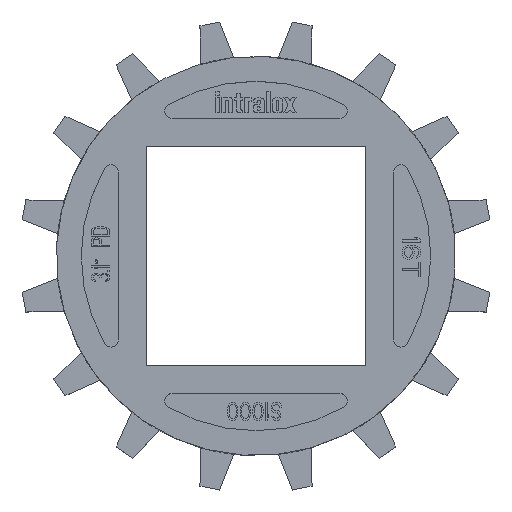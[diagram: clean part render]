
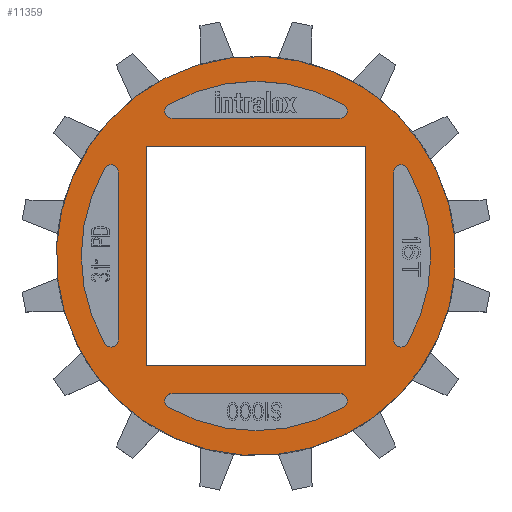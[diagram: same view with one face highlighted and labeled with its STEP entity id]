
A CAD part, top view. The second image highlights one B-rep face of the part: STEP entity #11359.
In plain terms, the highlighted planar face has unit normal (0, 0, 1).
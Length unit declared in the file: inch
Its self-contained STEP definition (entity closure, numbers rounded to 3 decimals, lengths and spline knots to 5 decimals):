
#107=CARTESIAN_POINT('',(0.,0.,0.25));
#108=DIRECTION('',(0.,0.,-1.));
#109=DIRECTION('',(0.707,0.707,0.));
#110=AXIS2_PLACEMENT_3D('',#107,#108,#109);
#917=CARTESIAN_POINT('',(0.,0.,0.25));
#918=DIRECTION('',(0.,0.,1.));
#919=DIRECTION('',(0.707,0.707,0.));
#920=AXIS2_PLACEMENT_3D('',#917,#918,#919);
#922=DIRECTION('',(1.,0.,0.));
#923=VECTOR('',#922,1.1453);
#924=CARTESIAN_POINT('',(-0.57265,-0.94,0.25));
#925=LINE('',#924,#923);
#926=CARTESIAN_POINT('',(-0.57265,-0.99,0.25));
#927=DIRECTION('',(0.,0.,-1.));
#928=DIRECTION('',(-0.501,-0.866,0.));
#929=AXIS2_PLACEMENT_3D('',#926,#927,#928);
#931=CARTESIAN_POINT('',(0.,0.,0.25));
#932=DIRECTION('',(0.,0.,-1.));
#933=DIRECTION('',(0.501,-0.866,0.));
#934=AXIS2_PLACEMENT_3D('',#931,#932,#933);
#936=CARTESIAN_POINT('',(0.57265,-0.99,0.25));
#937=DIRECTION('',(0.,0.,-1.));
#938=DIRECTION('',(0.,1.,0.));
#939=AXIS2_PLACEMENT_3D('',#936,#937,#938);
#941=DIRECTION('',(0.,1.,0.));
#942=VECTOR('',#941,1.1453);
#943=CARTESIAN_POINT('',(0.94,-0.57265,0.25));
#944=LINE('',#943,#942);
#945=CARTESIAN_POINT('',(0.99,-0.57265,0.25));
#946=DIRECTION('',(0.,0.,-1.));
#947=DIRECTION('',(0.866,-0.501,0.));
#948=AXIS2_PLACEMENT_3D('',#945,#946,#947);
#950=CARTESIAN_POINT('',(0.,0.,0.25));
#951=DIRECTION('',(0.,0.,-1.));
#952=DIRECTION('',(0.866,0.501,0.));
#953=AXIS2_PLACEMENT_3D('',#950,#951,#952);
#955=CARTESIAN_POINT('',(0.99,0.57265,0.25));
#956=DIRECTION('',(0.,0.,-1.));
#957=DIRECTION('',(-1.,0.,0.));
#958=AXIS2_PLACEMENT_3D('',#955,#956,#957);
#960=DIRECTION('',(-1.,0.,0.));
#961=VECTOR('',#960,1.1453);
#962=CARTESIAN_POINT('',(0.57265,0.94,0.25));
#963=LINE('',#962,#961);
#964=CARTESIAN_POINT('',(0.57265,0.99,0.25));
#965=DIRECTION('',(0.,0.,-1.));
#966=DIRECTION('',(0.501,0.866,0.));
#967=AXIS2_PLACEMENT_3D('',#964,#965,#966);
#969=CARTESIAN_POINT('',(0.,0.,0.25));
#970=DIRECTION('',(0.,0.,-1.));
#971=DIRECTION('',(-0.501,0.866,0.));
#972=AXIS2_PLACEMENT_3D('',#969,#970,#971);
#974=CARTESIAN_POINT('',(-0.57265,0.99,0.25));
#975=DIRECTION('',(0.,0.,-1.));
#976=DIRECTION('',(0.,-1.,0.));
#977=AXIS2_PLACEMENT_3D('',#974,#975,#976);
#979=DIRECTION('',(0.,-1.,0.));
#980=VECTOR('',#979,1.1453);
#981=CARTESIAN_POINT('',(-0.94,0.57265,0.25));
#982=LINE('',#981,#980);
#983=CARTESIAN_POINT('',(-0.99,0.57265,0.25));
#984=DIRECTION('',(0.,0.,-1.));
#985=DIRECTION('',(-0.866,0.501,0.));
#986=AXIS2_PLACEMENT_3D('',#983,#984,#985);
#988=CARTESIAN_POINT('',(0.,0.,0.25));
#989=DIRECTION('',(0.,0.,-1.));
#990=DIRECTION('',(-0.866,-0.501,0.));
#991=AXIS2_PLACEMENT_3D('',#988,#989,#990);
#993=CARTESIAN_POINT('',(-0.99,-0.57265,0.25));
#994=DIRECTION('',(0.,0.,-1.));
#995=DIRECTION('',(1.,0.,0.));
#996=AXIS2_PLACEMENT_3D('',#993,#994,#995);
#998=DIRECTION('',(0.,1.,0.));
#999=VECTOR('',#998,1.5);
#1000=CARTESIAN_POINT('',(-0.75,-0.75,0.25));
#1001=LINE('',#1000,#999);
#1002=DIRECTION('',(-1.,0.,0.));
#1003=VECTOR('',#1002,1.5);
#1004=CARTESIAN_POINT('',(0.75,-0.75,0.25));
#1005=LINE('',#1004,#1003);
#1006=DIRECTION('',(0.,-1.,0.));
#1007=VECTOR('',#1006,1.5);
#1008=CARTESIAN_POINT('',(0.75,0.75,0.25));
#1009=LINE('',#1008,#1007);
#1010=DIRECTION('',(1.,0.,0.));
#1011=VECTOR('',#1010,1.5);
#1012=CARTESIAN_POINT('',(-0.75,0.75,0.25));
#1013=LINE('',#1012,#1011);
#7630=CARTESIAN_POINT('',(0.96427,0.96427,0.25));
#7631=VERTEX_POINT('',#7630);
#7632=CARTESIAN_POINT('',(0.52186,1.25988,0.25));
#7633=VERTEX_POINT('',#7632);
#9675=CARTESIAN_POINT('',(-0.75,-0.75,0.25));
#9677=VERTEX_POINT('',#9675);
#9679=CARTESIAN_POINT('',(-0.75,0.75,0.25));
#9681=VERTEX_POINT('',#9679);
#9683=CARTESIAN_POINT('',(0.75,0.75,0.25));
#9685=VERTEX_POINT('',#9683);
#9687=CARTESIAN_POINT('',(0.75,-0.75,0.25));
#9689=VERTEX_POINT('',#9687);
#9714=CARTESIAN_POINT('',(-0.57265,-0.94,0.25));
#9715=CARTESIAN_POINT('',(0.57265,-0.94,0.25));
#9716=VERTEX_POINT('',#9714);
#9717=VERTEX_POINT('',#9715);
#9718=CARTESIAN_POINT('',(0.59768,-1.03328,0.25));
#9719=VERTEX_POINT('',#9718);
#9720=CARTESIAN_POINT('',(-0.59768,-1.03328,0.25));
#9721=VERTEX_POINT('',#9720);
#9778=CARTESIAN_POINT('',(0.94,-0.57265,0.25));
#9779=CARTESIAN_POINT('',(0.94,0.57265,0.25));
#9780=VERTEX_POINT('',#9778);
#9781=VERTEX_POINT('',#9779);
#9782=CARTESIAN_POINT('',(1.03328,0.59768,0.25));
#9783=VERTEX_POINT('',#9782);
#9784=CARTESIAN_POINT('',(1.03328,-0.59768,0.25));
#9785=VERTEX_POINT('',#9784);
#9794=CARTESIAN_POINT('',(0.57265,0.94,0.25));
#9795=CARTESIAN_POINT('',(-0.57265,0.94,0.25));
#9796=VERTEX_POINT('',#9794);
#9797=VERTEX_POINT('',#9795);
#9798=CARTESIAN_POINT('',(-0.59768,1.03328,0.25));
#9799=VERTEX_POINT('',#9798);
#9800=CARTESIAN_POINT('',(0.59768,1.03328,0.25));
#9801=VERTEX_POINT('',#9800);
#9810=CARTESIAN_POINT('',(-0.94,0.57265,0.25));
#9811=CARTESIAN_POINT('',(-0.94,-0.57265,0.25));
#9812=VERTEX_POINT('',#9810);
#9813=VERTEX_POINT('',#9811);
#9814=CARTESIAN_POINT('',(-1.03328,-0.59768,0.25));
#9815=VERTEX_POINT('',#9814);
#9816=CARTESIAN_POINT('',(-1.03328,0.59768,0.25));
#9817=VERTEX_POINT('',#9816);
#11300=CARTESIAN_POINT('',(0.,0.,0.25));
#11301=DIRECTION('',(0.,0.,1.));
#11302=DIRECTION('',(1.,0.,0.));
#11303=AXIS2_PLACEMENT_3D('',#11300,#11301,#11302);
#11304=PLANE('',#11303);
#11305=ORIENTED_EDGE('',*,*,#10031,.T.);
#11306=ORIENTED_EDGE('',*,*,#11215,.F.);
#11307=EDGE_LOOP('',(#11305,#11306));
#11308=FACE_OUTER_BOUND('',#11307,.F.);
#11310=ORIENTED_EDGE('',*,*,#11309,.F.);
#11312=ORIENTED_EDGE('',*,*,#11311,.F.);
#11314=ORIENTED_EDGE('',*,*,#11313,.F.);
#11316=ORIENTED_EDGE('',*,*,#11315,.F.);
#11317=EDGE_LOOP('',(#11310,#11312,#11314,#11316));
#11318=FACE_BOUND('',#11317,.F.);
#11320=ORIENTED_EDGE('',*,*,#11319,.F.);
#11322=ORIENTED_EDGE('',*,*,#11321,.F.);
#11324=ORIENTED_EDGE('',*,*,#11323,.F.);
#11326=ORIENTED_EDGE('',*,*,#11325,.F.);
#11327=EDGE_LOOP('',(#11320,#11322,#11324,#11326));
#11328=FACE_BOUND('',#11327,.F.);
#11330=ORIENTED_EDGE('',*,*,#11329,.F.);
#11332=ORIENTED_EDGE('',*,*,#11331,.F.);
#11334=ORIENTED_EDGE('',*,*,#11333,.F.);
#11336=ORIENTED_EDGE('',*,*,#11335,.F.);
#11337=EDGE_LOOP('',(#11330,#11332,#11334,#11336));
#11338=FACE_BOUND('',#11337,.F.);
#11340=ORIENTED_EDGE('',*,*,#11339,.F.);
#11342=ORIENTED_EDGE('',*,*,#11341,.F.);
#11344=ORIENTED_EDGE('',*,*,#11343,.F.);
#11346=ORIENTED_EDGE('',*,*,#11345,.F.);
#11347=EDGE_LOOP('',(#11340,#11342,#11344,#11346));
#11348=FACE_BOUND('',#11347,.F.);
#11350=ORIENTED_EDGE('',*,*,#11349,.F.);
#11352=ORIENTED_EDGE('',*,*,#11351,.F.);
#11354=ORIENTED_EDGE('',*,*,#11353,.F.);
#11356=ORIENTED_EDGE('',*,*,#11355,.F.);
#11357=EDGE_LOOP('',(#11350,#11352,#11354,#11356));
#11358=FACE_BOUND('',#11357,.F.);
#11359=ADVANCED_FACE('',(#11308,#11318,#11328,#11338,#11348,#11358),#11304,.T.);
#111=CIRCLE('',#110,1.36369);
#921=CIRCLE('',#920,1.36369);
#930=CIRCLE('',#929,0.05);
#935=CIRCLE('',#934,1.19369);
#940=CIRCLE('',#939,0.05);
#949=CIRCLE('',#948,0.05);
#954=CIRCLE('',#953,1.19369);
#959=CIRCLE('',#958,0.05);
#968=CIRCLE('',#967,0.05);
#973=CIRCLE('',#972,1.19369);
#978=CIRCLE('',#977,0.05);
#987=CIRCLE('',#986,0.05);
#992=CIRCLE('',#991,1.19369);
#997=CIRCLE('',#996,0.05);
#10031=EDGE_CURVE('',#7631,#7633,#111,.T.);
#11215=EDGE_CURVE('',#7631,#7633,#921,.T.);
#11309=EDGE_CURVE('',#9716,#9717,#925,.T.);
#11311=EDGE_CURVE('',#9721,#9716,#930,.T.);
#11313=EDGE_CURVE('',#9719,#9721,#935,.T.);
#11315=EDGE_CURVE('',#9717,#9719,#940,.T.);
#11319=EDGE_CURVE('',#9780,#9781,#944,.T.);
#11321=EDGE_CURVE('',#9785,#9780,#949,.T.);
#11323=EDGE_CURVE('',#9783,#9785,#954,.T.);
#11325=EDGE_CURVE('',#9781,#9783,#959,.T.);
#11329=EDGE_CURVE('',#9796,#9797,#963,.T.);
#11331=EDGE_CURVE('',#9801,#9796,#968,.T.);
#11333=EDGE_CURVE('',#9799,#9801,#973,.T.);
#11335=EDGE_CURVE('',#9797,#9799,#978,.T.);
#11339=EDGE_CURVE('',#9812,#9813,#982,.T.);
#11341=EDGE_CURVE('',#9817,#9812,#987,.T.);
#11343=EDGE_CURVE('',#9815,#9817,#992,.T.);
#11345=EDGE_CURVE('',#9813,#9815,#997,.T.);
#11349=EDGE_CURVE('',#9677,#9681,#1001,.T.);
#11351=EDGE_CURVE('',#9689,#9677,#1005,.T.);
#11353=EDGE_CURVE('',#9685,#9689,#1009,.T.);
#11355=EDGE_CURVE('',#9681,#9685,#1013,.T.);
